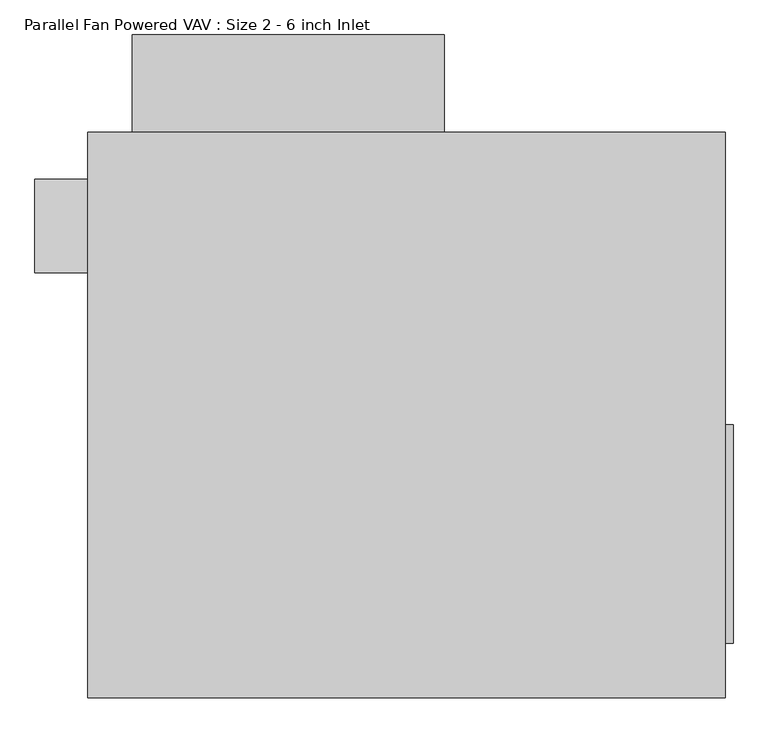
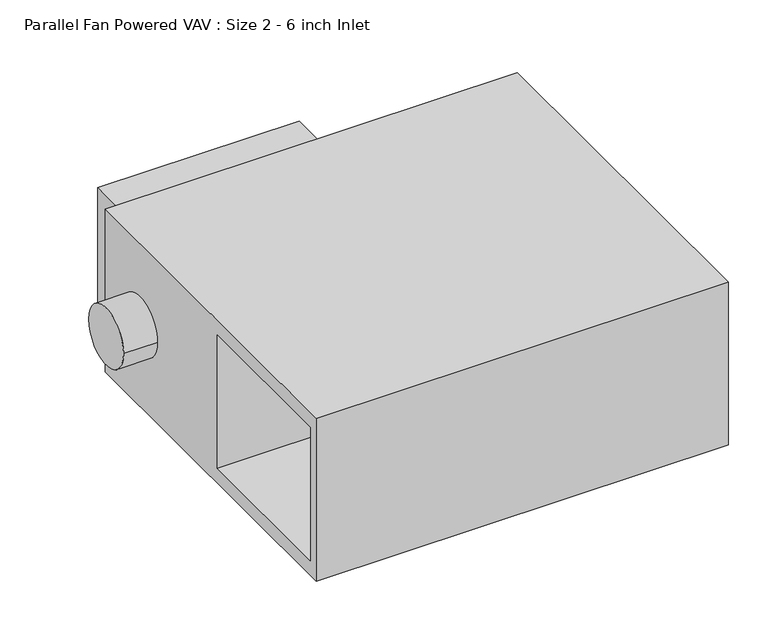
"""IFC4 building model written with IfcOpenShell, lengths in millimetres: proxy geometry, Parallel Fan Powered VAV : Size 2 - 6 inch Inlet."""

from ifc_helpers import new_model, si_unit, point, frame, frame_2d, origin, place, context, project, spatial, polyline, circle_curve, trimmed, segment, composite_curve, outline, extrude, faceted_brep, source, transform, mapped, element, save


def parallel_fan_powered_vav_size_2_6_inch_inlet_6222e6d5(model_context):
    return source(origin(), model_context, "Body", "SolidModel", [
        extrude(outline(polyline([(531.8125, -15.875), (531.8125, -371.475), (519.1125, -371.475), (519.1125, -15.875), (531.8125, -15.875)])), frame((0.0, 0.0, -139.7), z_axis=(0.0, 0.0, 1.0), x_axis=(1.0, 0.0, 0.0)), (0.0, 0.0, 1.0), 279.4),
        extrude(outline(polyline([(61.9125, 460.375), (-446.0875, 460.375), (-446.0875, 619.125), (61.9125, 619.125), (61.9125, 460.375)])), frame((0.0, 0.0, -152.4), z_axis=(0.0, 0.0, 1.0), x_axis=(1.0, 0.0, 0.0)), (0.0, 0.0, 1.0), 304.8),
        extrude(outline(composite_curve([segment(trimmed(circle_curve(frame_2d((307.975, 0.0)), 76.2), [point((231.775, 0.0))], [point((384.175, 0.0))], False, "CARTESIAN"), True, "CONTINUOUS"), segment(trimmed(circle_curve(frame_2d((307.975, 0.0)), 76.2), [point((384.175, 0.0))], [point((231.775, 0.0))], False, "CARTESIAN"), True, "CONTINUOUS")], self_intersect=False)), frame((-604.8375, 0.0, 0.0), z_axis=(1.0, 0.0, 0.0), x_axis=(0.0, 1.0, 0.0)), (0.0, 0.0, 1.0), 85.725),
        faceted_brep([(519.1125, 460.375, 217.4875), (-519.1125, 460.375, 217.4875), (-519.1125, -460.375, 217.4875), (519.1125, -460.375, 217.4875), (519.1125, 460.375, -217.4875), (519.1125, -460.375, -217.4875), (-519.1125, -460.375, -217.4875), (-519.1125, 460.375, -217.4875), (-519.1125, -434.975, 177.8), (-519.1125, -434.975, -177.8), (-519.1125, -28.575, -177.8), (-519.1125, -28.575, 177.8), (0.0, -434.975, 177.8), (0.0, -28.575, 177.8), (0.0, -28.575, -177.8), (0.0, -434.975, -177.8)], [[[0, 1, 2, 3]], [[4, 5, 6, 7]], [[1, 0, 4, 7]], [[2, 1, 7, 6], [8, 9, 10, 11]], [[3, 2, 6, 5]], [[0, 3, 5, 4]], [[12, 13, 14, 15]], [[12, 15, 9, 8]], [[15, 14, 10, 9]], [[14, 13, 11, 10]], [[13, 12, 8, 11]]]),
    ])


if __name__ == "__main__":
    model = new_model("IFC4")
    model_context = context("Model", 3, world=origin())
    ifc_project = project(units=[si_unit("LENGTHUNIT", "METRE", prefix="MILLI")], contexts=[model_context])
    site = spatial("IfcSite", under=ifc_project)
    building = spatial("IfcBuilding", under=site)
    placement = place(None, origin())
    parallel_fan_powered_vav_size_2_6_inch_inlet_shape = parallel_fan_powered_vav_size_2_6_inch_inlet_6222e6d5(model_context)
    element("IfcBuildingElementProxy", 1, Name="Parallel Fan Powered VAV : Size 2 - 6 inch Inlet", ObjectType="Parallel Fan Powered VAV : Size 2 - 6 inch Inlet", at=placement, inside=building, context=model_context, shape_type="MappedRepresentation", body=[
        mapped(parallel_fan_powered_vav_size_2_6_inch_inlet_shape, transform((0.0, 0.0, 0.0), x_axis=(1.0, 0.0, 0.0), y_axis=(0.0, 1.0, 0.0), z_axis=(0.0, 0.0, 1.0))),
    ])
    save(model, "model.ifc")
